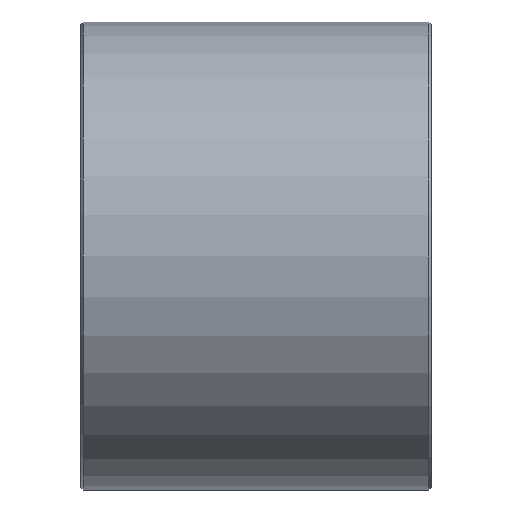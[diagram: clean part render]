
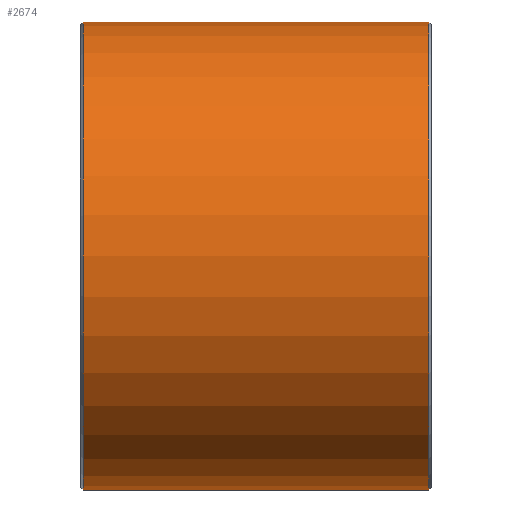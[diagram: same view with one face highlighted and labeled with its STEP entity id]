
A CAD part, front view. The second image highlights one B-rep face of the part: STEP entity #2674.
In plain terms, the highlighted cylindrical face has radius 40 mm (diameter 80 mm), a partial arc.
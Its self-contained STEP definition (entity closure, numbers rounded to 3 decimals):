
#91=DIRECTION('',(1.,0.,0.));
#92=VECTOR('',#91,59.);
#93=CARTESIAN_POINT('',(-29.5,0.,
-40.));
#94=LINE('',#93,#92);
#143=CARTESIAN_POINT('',(29.5,0.,0.));
#144=DIRECTION('',(1.,0.,0.));
#145=DIRECTION('',(0.,0.,1.));
#146=AXIS2_PLACEMENT_3D('',#143,#144,#145);
#148=CARTESIAN_POINT('',(-29.5,0.,0.));
#149=DIRECTION('',(-1.,0.,0.));
#150=DIRECTION('',(0.,0.,-1.));
#151=AXIS2_PLACEMENT_3D('',#148,#149,#150);
#153=DIRECTION('',(1.,0.,0.));
#154=VECTOR('',#153,59.);
#155=CARTESIAN_POINT('',(-29.5,0.,
40.));
#156=LINE('',#155,#154);
#2541=CARTESIAN_POINT('',(29.5,0.,40.));
#2542=CARTESIAN_POINT('',(29.5,0.,-40.));
#2543=VERTEX_POINT('',#2541);
#2544=VERTEX_POINT('',#2542);
#2549=CARTESIAN_POINT('',(-29.5,0.,-40.));
#2550=CARTESIAN_POINT('',(-29.5,0.,40.));
#2551=VERTEX_POINT('',#2549);
#2552=VERTEX_POINT('',#2550);
#2663=CARTESIAN_POINT('',(-30.,0.,0.));
#2664=DIRECTION('',(1.,0.,0.));
#2665=DIRECTION('',(0.,0.,-1.));
#2666=AXIS2_PLACEMENT_3D('',#2663,#2664,#2665);
#2667=CYLINDRICAL_SURFACE('',#2666,40.);
#2668=ORIENTED_EDGE('',*,*,#2657,.T.);
#2669=ORIENTED_EDGE('',*,*,#2611,.F.);
#2670=ORIENTED_EDGE('',*,*,#2581,.T.);
#2671=ORIENTED_EDGE('',*,*,#2608,.T.);
#2672=EDGE_LOOP('',(#2668,#2669,#2670,#2671));
#2673=FACE_OUTER_BOUND('',#2672,.F.);
#2674=ADVANCED_FACE('',(#2673),#2667,.T.);
#147=CIRCLE('',#146,40.);
#152=CIRCLE('',#151,40.);
#2581=EDGE_CURVE('',#2551,#2552,#152,.T.);
#2608=EDGE_CURVE('',#2552,#2543,#156,.T.);
#2611=EDGE_CURVE('',#2551,#2544,#94,.T.);
#2657=EDGE_CURVE('',#2543,#2544,#147,.T.);
